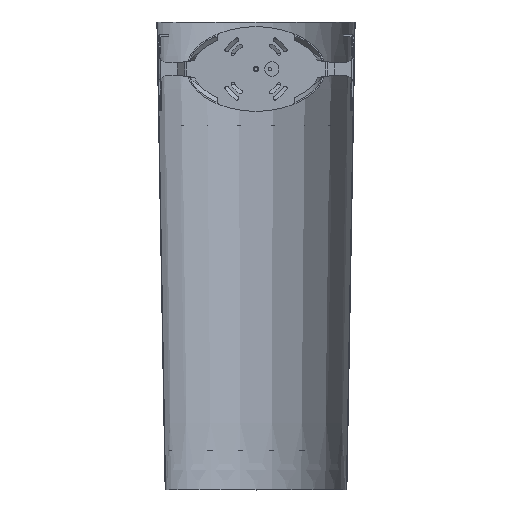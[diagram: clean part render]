
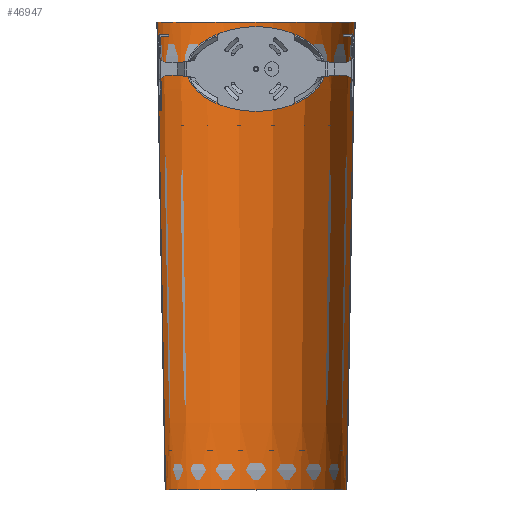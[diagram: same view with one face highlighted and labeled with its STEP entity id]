
A CAD part, top view. The second image highlights one B-rep face of the part: STEP entity #46947.
In plain terms, the highlighted conical face has half-angle 1.01 degrees and reference radius 124.4 mm.
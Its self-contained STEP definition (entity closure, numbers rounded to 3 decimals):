
#2175 = CIRCLE ( 'NONE', #13077, 124.4 ) ;
#4725 = AXIS2_PLACEMENT_3D ( 'NONE', #57671, #57999, #26729 ) ;
#5403 = EDGE_LOOP ( 'NONE', ( #29833, #67188, #43524, #9933 ) ) ;
#7386 = DIRECTION ( 'NONE',  ( -0.018, -1., 0. ) ) ;
#9206 = DIRECTION ( 'NONE',  ( 1., 0., 0. ) ) ;
#9656 = VECTOR ( 'NONE', #7386, 1000. ) ;
#9933 = ORIENTED_EDGE ( 'NONE', *, *, #13497, .T. ) ;
#12632 = VECTOR ( 'NONE', #65533, 1000. ) ;
#13077 = AXIS2_PLACEMENT_3D ( 'NONE', #55767, #14990, #9206 ) ;
#13497 = EDGE_CURVE ( 'NONE', #37830, #52478, #2175, .T. ) ;
#14990 = DIRECTION ( 'NONE',  ( 0., 1., 0. ) ) ;
#16526 = CARTESIAN_POINT ( 'NONE',  ( -124.4, 59.286, -10.276 ) ) ;
#19810 = AXIS2_PLACEMENT_3D ( 'NONE', #54513, #49391, #64008 ) ;
#23301 = LINE ( 'NONE', #33247, #9656 ) ;
#23416 = LINE ( 'NONE', #24435, #12632 ) ;
#24435 = CARTESIAN_POINT ( 'NONE',  ( 0., -6998.08, -10.276 ) ) ;
#26729 = DIRECTION ( 'NONE',  ( 1., 0., 0. ) ) ;
#29833 = ORIENTED_EDGE ( 'NONE', *, *, #35739, .T. ) ;
#33247 = CARTESIAN_POINT ( 'NONE',  ( 0., -6998.08, -10.276 ) ) ;
#35739 = EDGE_CURVE ( 'NONE', #52478, #45591, #23416, .T. ) ;
#36946 = EDGE_CURVE ( 'NONE', #37830, #37516, #23301, .T. ) ;
#37516 = VERTEX_POINT ( 'NONE', #56294 ) ;
#37830 = VERTEX_POINT ( 'NONE', #53857 ) ;
#43524 = ORIENTED_EDGE ( 'NONE', *, *, #36946, .F. ) ;
#45081 = EDGE_CURVE ( 'NONE', #37516, #45591, #49119, .T. ) ;
#45591 = VERTEX_POINT ( 'NONE', #45656 ) ;
#45656 = CARTESIAN_POINT ( 'NONE',  ( -114., -530.714, -10.276 ) ) ;
#46947 = ADVANCED_FACE ( 'NONE', ( #62749 ), #63300, .F. ) ;
#49119 = CIRCLE ( 'NONE', #19810, 114. ) ;
#49391 = DIRECTION ( 'NONE',  ( 0., 1., 0. ) ) ;
#52478 = VERTEX_POINT ( 'NONE', #16526 ) ;
#53857 = CARTESIAN_POINT ( 'NONE',  ( 124.4, 59.286, -10.276 ) ) ;
#54513 = CARTESIAN_POINT ( 'NONE',  ( 0., -530.714, -10.276 ) ) ;
#55767 = CARTESIAN_POINT ( 'NONE',  ( 0., 59.286, -10.276 ) ) ;
#56294 = CARTESIAN_POINT ( 'NONE',  ( 114., -530.714, -10.276 ) ) ;
#57671 = CARTESIAN_POINT ( 'NONE',  ( 0., 59.286, -10.276 ) ) ;
#57999 = DIRECTION ( 'NONE',  ( 0., 1., 0. ) ) ;
#62749 = FACE_OUTER_BOUND ( 'NONE', #5403, .T. ) ;
#63300 = CONICAL_SURFACE ( 'NONE', #4725, 124.4, 0.018 ) ;
#64008 = DIRECTION ( 'NONE',  ( 1., 0., 0. ) ) ;
#65533 = DIRECTION ( 'NONE',  ( 0.018, -1., 0. ) ) ;
#67188 = ORIENTED_EDGE ( 'NONE', *, *, #45081, .F. ) ;
